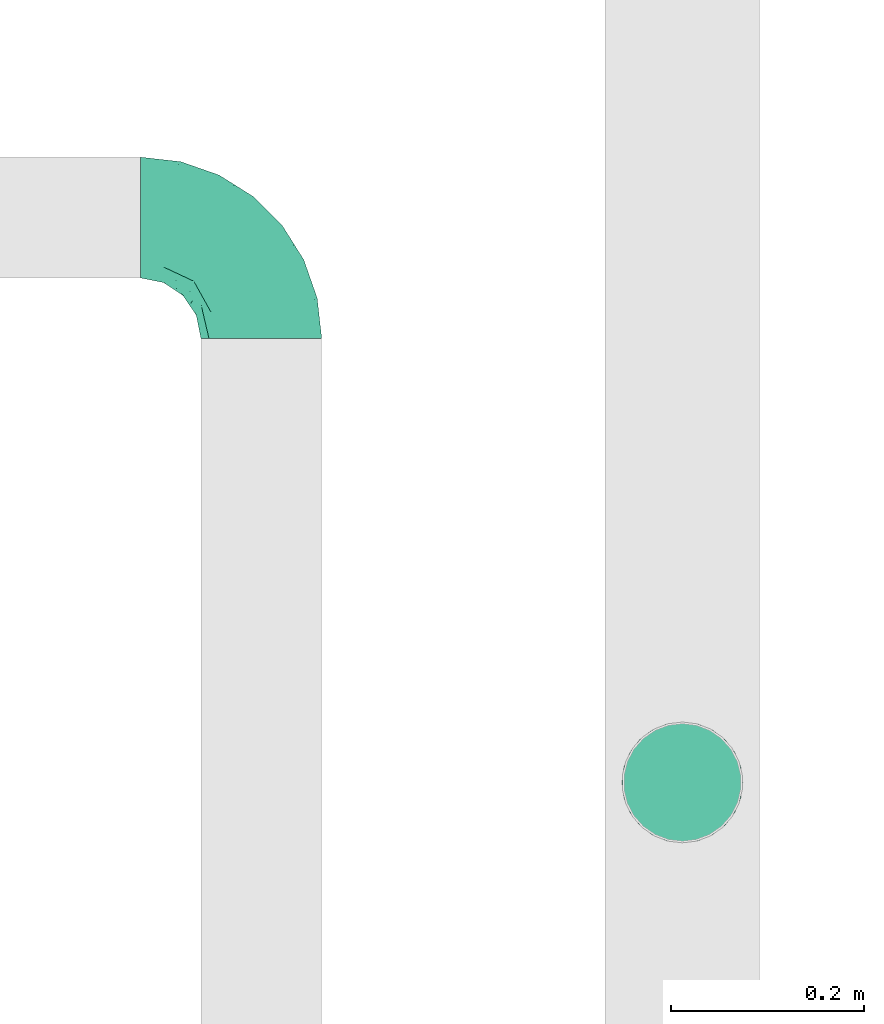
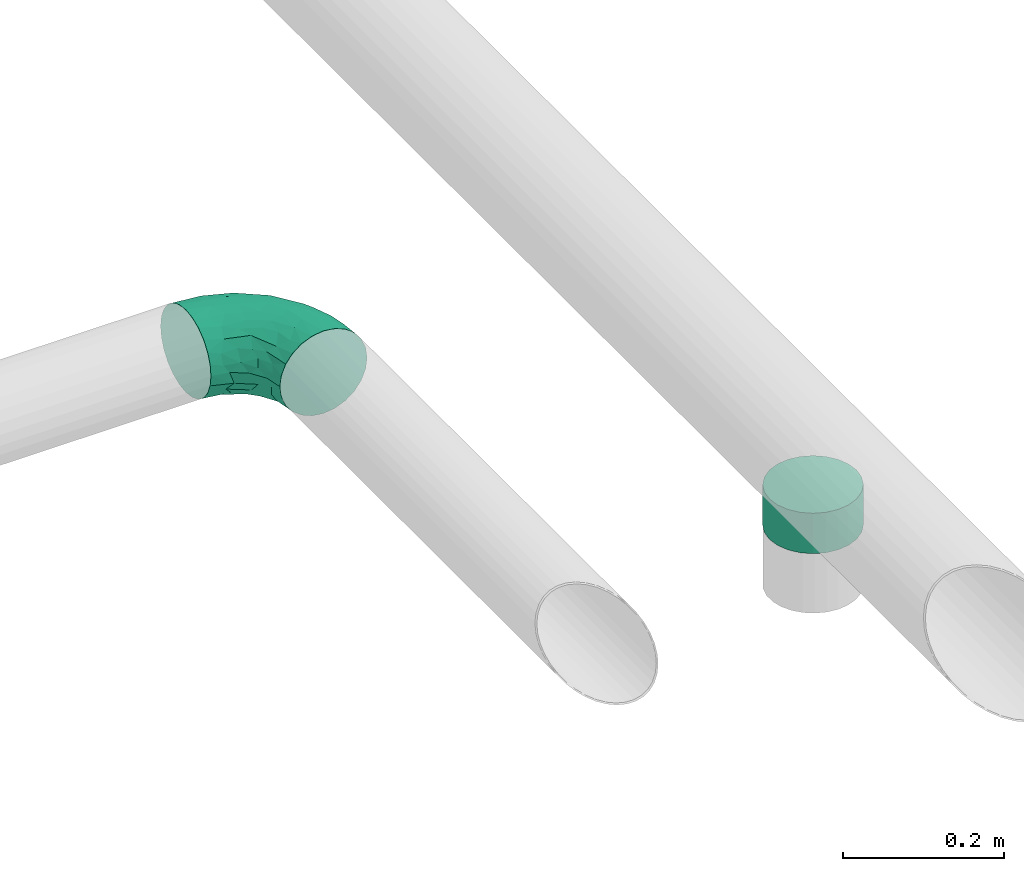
# One storey, part 6 of 10: 2 flow fittings.
"""IFC2X3 building model written with IfcOpenShell, lengths in millimetres."""

from ifc_helpers import new_model, entity, si_unit, converted_unit, derived_unit, direction, frame, origin_with_axes, place, context, subcontext, project, spatial, open_shell, surface_model, source, transform, mapped, type_object, element, save


model = new_model("IFC2X3")

# Units and contexts
model_context = context("Model", 3, precision=0.01, world=frame((0.0, 4.29681676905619e-09, 0.0)), true_north=direction((4.01073788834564e-13, 1.0)))
plan_context = context("Plan", 3, precision=0.01, world=frame((0.0, 4.29681676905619e-09, 0.0)), true_north=direction((4.01073788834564e-13, 1.0)))
body_context = subcontext(model_context, "Body", "Model", "MODEL_VIEW")
ifc_project = project(units=[converted_unit("PLANEANGLEUNIT", "DEGREE", entity("IfcPositiveLengthMeasure", 0.0174532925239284), si_unit("PLANEANGLEUNIT", "RADIAN"), dimensions=[0, 0, 0, 0, 0, 0, 0]), si_unit("AREAUNIT", "SQUARE_METRE"), si_unit("LENGTHUNIT", "METRE", prefix="MILLI"), si_unit("MASSUNIT", "GRAM", prefix="KILO"), si_unit("POWERUNIT", "WATT"), si_unit("PRESSUREUNIT", "PASCAL"), si_unit("FORCEUNIT", "NEWTON", prefix="KILO"), si_unit("ELECTRICCURRENTUNIT", "AMPERE"), si_unit("THERMODYNAMICTEMPERATUREUNIT", "DEGREE_CELSIUS"), si_unit("TIMEUNIT", "SECOND"), si_unit("VOLUMEUNIT", "CUBIC_METRE"), derived_unit("LINEARVELOCITYUNIT", [(si_unit("LENGTHUNIT", "METRE"), 1), (si_unit("TIMEUNIT", "SECOND"), -1)]), derived_unit("VOLUMETRICFLOWRATEUNIT", [(si_unit("VOLUMEUNIT", "CUBIC_METRE"), 1), (si_unit("TIMEUNIT", "SECOND"), -1)]), derived_unit("THERMALTRANSMITTANCEUNIT", [(si_unit("POWERUNIT", "WATT"), 1), (si_unit("THERMODYNAMICTEMPERATUREUNIT", "KELVIN"), -1), (si_unit("AREAUNIT", "SQUARE_METRE"), -1)])], contexts=[model_context, plan_context])

# Site, building, storey
site_placement = place(None, frame((0.0, -4.29681676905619e-09, 0.0), z_axis=(0.0, 0.0, 1.0), x_axis=(1.0, 0.0, 0.0)))
site = spatial("IfcSite", under=ifc_project, at=site_placement, CompositionType="ELEMENT")
building_placement = place(site_placement, frame((0.0, 4.29681676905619e-09, 0.0), z_axis=(0.0, 0.0, 1.0), x_axis=(1.0, 0.0, 0.0)))
building = spatial("IfcBuilding", under=site, at=building_placement, Name="mc-building", CompositionType="ELEMENT")
storey_placement = place(building_placement, frame((0.0, 0.0, 200300.0), z_axis=(0.0, 0.0, 1.0), x_axis=(1.0, 0.0, 0.0)))
storey = spatial("IfcBuildingStorey", under=building, at=storey_placement, Name="Nivå C", CompositionType="ELEMENT", Elevation=200300.0)

# Flow fittings
duct_fitting_type_1 = type_object("IfcDuctFittingType", Name="magicirc_elbow_full_radius_001", PredefinedType="BEND")
shared_shape_1 = source(origin_with_axes(), body_context, "Body", "SurfaceModel", [
    surface_model("IfcShellBasedSurfaceModel", [(-125.0, 31.25, -54.12659), (-125.0, 16.17619, -60.37037), (-125.0, 44.19417, -44.19417), (-125.0, 60.37037, -16.17619), (-125.0, 54.12659, -31.25), (-125.0, -31.25, -54.12659), (-125.0, -44.19417, -44.19417), (-125.0, -16.17619, -60.37037), (-125.0, -54.12659, -31.25), (-125.0, -60.37037, -16.17619), (-125.0, -62.5, 0.0), (-125.0, -54.12659, 31.25), (-125.0, -44.19417, 44.19417), (-125.0, -60.37037, 16.17619), (-125.0, -16.17619, 60.37037), (-125.0, 0.0, 62.5), (-125.0, -31.25, 54.12659), (-125.0, 16.17619, 60.37037), (-44.19417, 125.0, -44.19417), (-16.17619, 125.0, -60.37037), (-31.25, 125.0, -54.12659), (-54.12659, 125.0, -31.25), (-60.37037, 125.0, -16.17619), (16.17619, 125.0, -60.37037), (44.19417, 125.0, -44.19417), (31.25, 125.0, -54.12659), (60.37037, 125.0, -16.17619), (54.12659, 125.0, -31.25), (62.5, 125.0, 0.0), (44.19417, 125.0, 44.19417), (31.25, 125.0, 54.12659), (60.37037, 125.0, 16.17619), (54.12659, 125.0, 31.25), (0.0, 125.0, 62.5), (16.17619, 125.0, 60.37037), (-16.17619, 125.0, 60.37037), (-92.0149, -48.59662, 35.11543), (-82.31101, -36.10079, 46.59002), (-83.27732, -57.79898, 0.0), (21.5934, 8.09566, 0.0), (6.68953, -6.68953, 12.50062), (-8.09566, -21.5934, 0.0), (-85.18285, -54.95352, 19.72452), (-63.86862, 108.10791, 10.69753), (-72.65264, 88.16475, 13.64847), (-58.85933, 108.47697, 26.01876), (28.68805, 50.93011, 42.73586), (15.24994, 48.30376, 51.88115), (13.33611, 22.15566, 40.76355), (-28.58034, -33.18174, 16.61251), (-55.80927, -40.00167, 31.60254), (-55.92901, -46.21073, 18.75923), (-43.6468, -43.93166, 0.0), (-11.16429, 11.16428, 51.09905), (-91.91541, -23.64007, 56.2333), (-48.30376, -15.24994, 51.88115), (-62.2246, -0.56088, 60.57833), (-86.05221, 71.09173, 22.01563), (-76.29757, 73.71528, 30.99181), (-95.48, -8.27954, 61.43109), (-21.72166, 61.46244, 62.38786), (-46.29465, 46.29465, 60.98138), (-37.21568, 27.31198, 62.17805), (-125.0, 31.25, 54.12659), (-96.3442, 24.51222, 59.0402), (-23.33012, 107.80836, 58.54242), (-8.56588, 93.49118, 62.34649), (-87.52028, 9.58041, 62.39347), (-125.0, 54.12659, 31.25), (-90.8433, 62.14568, 32.36992), (-104.65631, 61.64741, 22.10298), (-108.67612, 63.76169, 10.43133), (-125.0, 62.5, 0.0), (-125.0, 60.37037, 16.17619), (-88.81041, 72.98575, 10.36437), (36.10079, 82.31101, 46.59002), (-22.15566, -13.33612, 40.76355), (-125.0, 44.19417, 44.19417), (-97.70214, 52.10141, 41.01675), (33.18174, 28.58034, 16.61251), (43.93166, 43.6468, 0.0), (-108.13323, 37.84893, 50.9265), (-16.31425, 41.86087, 61.36861), (-31.05498, 11.46575, 58.36241), (-6.38494, 33.76703, 57.43674), (23.64007, 91.91541, 56.2333), (8.27954, 95.48, 61.43109), (40.00167, 55.80927, 31.60254), (47.31258, 55.33607, 14.21495), (57.79898, 83.27732, 0.0), (54.95352, 85.18285, 19.72452), (48.59662, 92.0149, 35.11543), (-51.08394, 80.06201, 49.23756), (-51.34965, 100.68876, 40.68918), (-65.88145, 69.79931, 44.27158), (-67.25753, 101.08228, 0.0), (-60.37037, 125.0, 16.17619), (-54.12659, 125.0, 31.25), (-66.7509, 56.0836, 51.93913), (-47.27423, 67.56375, 55.69769), (-62.5, 125.0, 0.0), (-80.80582, 80.80582, 0.0), (-101.08228, 67.25753, 0.0), (-27.0301, 84.68903, 59.52251), (-39.49549, 96.79785, 51.80473), (-4.68934, 4.68934, 43.22247), (2.91368, -2.91368, 27.95973), (-31.25, 125.0, 54.12659), (-44.19417, 125.0, 44.19417), (-68.67967, 26.77168, 61.38152), (-61.32894, 15.31518, 62.47333), (-66.44476, 42.40788, 57.80884), (-86.06534, 42.42608, 52.63144), (-36.4073, 64.87811, 59.87196), (0.56088, 62.2246, 60.57833), (-50.92891, -28.66756, 42.755), (-64.50927, 88.5041, 30.85553), (-27.43118, -26.16339, 29.83954), (22.73426, 21.43212, 28.89237), (-90.73911, 40.97988, -52.27133), (-51.05944, -15.77315, -52.43613), (-54.27147, -0.77962, -59.44482), (-25.11169, -1.04586, -51.21226), (-125.0, 0.0, -62.5), (-98.94229, 7.90272, -62.29658), (-67.16143, 94.52638, -18.73917), (-96.1712, 24.53976, -59.04752), (-57.8841, 72.64103, -48.12601), (-44.50916, 76.42373, -54.27754), (-57.76281, 57.76281, -54.8772), (-107.28047, 64.03146, -11.08737), (-59.60363, -46.85882, -20.9596), (-91.17795, -55.95169, -20.37554), (-87.70528, 72.36167, -15.72738), (37.33987, 90.42119, -47.18844), (21.5694, 79.15007, -55.58604), (24.6394, 105.55614, -56.88213), (-98.81833, 51.80612, -40.89409), (-75.37655, 57.2746, -47.13743), (-29.56225, -32.61603, -19.86672), (2.63114, 29.35884, -52.12213), (-22.06401, 22.064, -59.01679), (-105.22465, -49.75349, -36.31269), (-39.22852, 98.11971, -51.7028), (-25.51302, 90.93127, -59.26694), (7.06321, 14.54725, -41.00964), (25.49531, 46.66577, -43.72165), (20.99941, 20.9078, -30.93535), (-90.42119, -37.33987, -47.18844), (-47.40462, -35.90659, -32.07933), (-105.55614, -24.6394, -56.88213), (0.77962, 54.27147, -59.44482), (12.91756, 53.35696, -54.59988), (7.88048, 92.08251, -61.35725), (0.0, 125.0, -62.5), (-79.15007, -21.5694, -55.58604), (-92.08251, -7.88048, -61.35725), (-78.52964, -46.34869, -33.8522), (-68.20954, -28.53784, -49.07387), (46.34869, 78.52964, -33.8522), (46.85882, 59.60363, -20.9596), (35.90659, 47.40462, -32.07933), (-75.95077, 74.3101, -30.65772), (-100.92719, 60.72326, -27.00798), (2.91558, -2.91558, -27.95435), (6.69001, -6.69001, -12.49729), (32.61603, 29.56225, -19.86672), (-54.06785, 91.48679, -41.70621), (-58.74822, 101.55878, -30.19257), (-7.90272, 98.94229, -62.29658), (49.75349, 105.22465, -36.31269), (-14.77484, 68.85348, -62.48651), (-33.7955, 36.46996, -62.46452), (-36.98162, 59.24998, -60.63975), (55.95169, 91.17795, -20.37554), (-61.70769, 36.16979, -60.43635), (-23.35082, -23.18253, -30.24249), (-68.85348, 14.77484, -62.48651), (-16.60827, -10.64436, -39.25753), (-46.66577, -25.49531, -43.72165), (-69.70063, 70.78468, -40.55271)], [open_shell([[[0, 1, 2]], [[3, 4, 2]], [[5, 6, 7]], [[8, 9, 6]], [[10, 6, 9]], [[11, 12, 13]], [[13, 12, 10]], [[14, 15, 16]], [[16, 15, 17]], [[18, 19, 20]], [[18, 21, 22]], [[23, 24, 25]], [[24, 26, 27]], [[26, 24, 28]], [[24, 29, 28]], [[24, 22, 30]], [[31, 29, 32]], [[28, 29, 31]], [[30, 33, 34]], [[24, 30, 29]], [[35, 33, 30]], [[12, 36, 37]], [[13, 10, 38]], [[39, 40, 41]], [[42, 11, 13]], [[38, 42, 13]], [[43, 44, 45]], [[11, 36, 12]], [[46, 47, 48]], [[49, 50, 51]], [[49, 51, 52]], [[12, 37, 16]], [[49, 52, 41]], [[53, 48, 47]], [[54, 55, 56]], [[44, 57, 58]], [[59, 15, 14]], [[60, 61, 62]], [[63, 17, 64]], [[54, 16, 37]], [[35, 65, 66]], [[15, 67, 17]], [[68, 69, 70]], [[71, 72, 73]], [[57, 74, 71]], [[75, 29, 30]], [[53, 55, 76]], [[77, 78, 68]], [[79, 39, 80]], [[77, 63, 81]], [[82, 83, 84]], [[75, 30, 85]], [[57, 71, 70]], [[86, 34, 33]], [[87, 79, 88]], [[89, 90, 88]], [[89, 31, 90]], [[91, 90, 32]], [[33, 35, 66]], [[51, 38, 52]], [[31, 32, 90]], [[75, 87, 91]], [[32, 29, 91]], [[92, 93, 94]], [[43, 95, 44]], [[96, 45, 97]], [[31, 89, 28]], [[36, 42, 50]], [[69, 58, 57]], [[92, 98, 99]], [[100, 95, 43]], [[15, 59, 67]], [[44, 101, 74]], [[77, 81, 78]], [[95, 101, 44]], [[85, 30, 34]], [[45, 93, 97]], [[74, 101, 102]], [[103, 104, 99]], [[105, 106, 48]], [[103, 60, 66]], [[16, 54, 14]], [[104, 103, 65]], [[65, 35, 107]], [[107, 108, 104]], [[75, 85, 47]], [[88, 79, 80]], [[109, 110, 62]], [[64, 17, 67]], [[111, 64, 109]], [[98, 78, 112]], [[70, 69, 57]], [[93, 108, 97]], [[103, 113, 60]], [[86, 66, 114]], [[55, 54, 37]], [[59, 54, 56]], [[55, 115, 76]], [[55, 53, 83]], [[86, 85, 34]], [[114, 84, 47]], [[114, 47, 85]], [[105, 48, 53]], [[42, 36, 11]], [[37, 36, 50]], [[75, 91, 29]], [[90, 91, 87]], [[109, 64, 67]], [[81, 64, 112]], [[71, 74, 102]], [[44, 74, 57]], [[72, 71, 102]], [[71, 73, 70]], [[73, 68, 70]], [[69, 68, 78]], [[78, 94, 69]], [[58, 94, 116]], [[104, 92, 99]], [[111, 98, 112]], [[109, 62, 61]], [[114, 66, 60]], [[83, 62, 56]], [[60, 62, 82]], [[66, 86, 33]], [[85, 86, 114]], [[54, 59, 14]], [[67, 59, 56]], [[94, 93, 116]], [[104, 108, 93]], [[40, 49, 41]], [[117, 106, 76]], [[87, 46, 118]], [[79, 118, 40]], [[115, 55, 37]], [[49, 117, 50]], [[118, 48, 106]], [[75, 46, 87]], [[109, 67, 110]], [[111, 109, 61]], [[99, 111, 61]], [[64, 111, 112]], [[99, 98, 111]], [[78, 98, 94]], [[67, 56, 110]], [[56, 62, 110]], [[94, 58, 69]], [[44, 58, 116]], [[55, 83, 56]], [[84, 83, 53]], [[47, 84, 53]], [[82, 84, 114]], [[60, 82, 114]], [[83, 82, 62]], [[45, 44, 116]], [[100, 43, 96]], [[79, 40, 39]], [[49, 40, 106]], [[64, 81, 63]], [[78, 81, 112]], [[104, 65, 107]], [[66, 65, 103]], [[43, 45, 96]], [[93, 45, 116]], [[60, 113, 61]], [[103, 99, 113]], [[93, 92, 104]], [[98, 92, 94]], [[50, 42, 51]], [[51, 42, 38]], [[89, 88, 80]], [[87, 88, 90]], [[37, 50, 115]], [[117, 115, 50]], [[106, 117, 49]], [[115, 117, 76]], [[53, 76, 105]], [[106, 105, 76]], [[40, 118, 106]], [[87, 118, 79]], [[47, 46, 75]], [[118, 46, 48]], [[2, 119, 0]], [[120, 121, 122]], [[123, 1, 124]], [[125, 95, 100]], [[0, 126, 1]], [[127, 128, 129]], [[102, 130, 72]], [[131, 38, 132]], [[102, 133, 130]], [[134, 135, 136]], [[137, 138, 119]], [[52, 139, 41]], [[140, 122, 141]], [[119, 2, 137]], [[132, 8, 142]], [[143, 20, 144]], [[38, 10, 9]], [[145, 146, 147]], [[148, 6, 5]], [[139, 131, 149]], [[150, 148, 5]], [[140, 151, 152]], [[23, 153, 154]], [[132, 9, 8]], [[142, 8, 6]], [[155, 156, 121]], [[157, 148, 158]], [[5, 7, 150]], [[156, 7, 123]], [[159, 160, 161]], [[101, 133, 102]], [[52, 38, 131]], [[125, 162, 133]], [[137, 163, 162]], [[22, 125, 100]], [[139, 164, 165]], [[166, 80, 39]], [[167, 168, 21]], [[162, 125, 168]], [[25, 24, 134]], [[153, 23, 136]], [[19, 169, 144]], [[126, 0, 119]], [[169, 19, 154]], [[24, 27, 170]], [[20, 143, 18]], [[19, 144, 20]], [[23, 25, 136]], [[80, 166, 160]], [[165, 166, 39]], [[171, 172, 173]], [[141, 151, 140]], [[165, 39, 41]], [[156, 155, 150]], [[135, 134, 146]], [[27, 26, 174]], [[28, 89, 26]], [[175, 126, 119]], [[2, 4, 137]], [[174, 159, 170]], [[176, 139, 149]], [[171, 153, 151]], [[125, 101, 95]], [[21, 18, 167]], [[173, 144, 171]], [[130, 163, 3]], [[127, 143, 128]], [[138, 127, 129]], [[174, 160, 159]], [[170, 134, 24]], [[146, 134, 159]], [[151, 153, 135]], [[169, 153, 171]], [[152, 146, 140]], [[151, 141, 172]], [[26, 89, 174]], [[160, 89, 80]], [[155, 120, 158]], [[142, 148, 157]], [[124, 156, 123]], [[177, 172, 121]], [[177, 121, 156]], [[121, 141, 122]], [[132, 157, 131]], [[38, 9, 132]], [[125, 133, 101]], [[168, 22, 21]], [[163, 4, 3]], [[119, 138, 129]], [[175, 119, 129]], [[124, 126, 177]], [[144, 173, 128]], [[167, 18, 143]], [[146, 145, 140]], [[178, 122, 145]], [[122, 140, 145]], [[122, 179, 120]], [[162, 163, 133]], [[137, 4, 163]], [[126, 124, 1]], [[156, 124, 177]], [[153, 169, 154]], [[144, 169, 171]], [[146, 161, 147]], [[145, 164, 178]], [[176, 164, 139]], [[122, 178, 179]], [[171, 151, 172]], [[175, 129, 173]], [[121, 172, 141]], [[175, 172, 177]], [[172, 175, 173]], [[126, 175, 177]], [[162, 180, 137]], [[180, 167, 127]], [[160, 174, 89]], [[161, 160, 166]], [[161, 166, 147]], [[146, 159, 161]], [[166, 164, 147]], [[164, 145, 147]], [[149, 131, 157]], [[52, 131, 139]], [[157, 179, 149]], [[176, 179, 178]], [[180, 127, 138]], [[143, 127, 167]], [[144, 128, 143]], [[173, 129, 128]], [[137, 180, 138]], [[167, 180, 162]], [[179, 176, 149]], [[164, 176, 178]], [[139, 165, 41]], [[166, 165, 164]], [[163, 130, 133]], [[72, 130, 3]], [[134, 136, 25]], [[153, 136, 135]], [[174, 170, 27]], [[134, 170, 159]], [[156, 150, 7]], [[148, 150, 155]], [[148, 142, 6]], [[132, 142, 157]], [[162, 168, 167]], [[22, 168, 125]], [[151, 135, 152]], [[146, 152, 135]], [[158, 120, 179]], [[121, 120, 155]], [[157, 158, 179]], [[155, 158, 148]], [[123, 6, 1]], [[6, 2, 1]], [[2, 6, 3]], [[6, 123, 7]], [[10, 12, 6]], [[73, 3, 6]], [[6, 16, 73]], [[73, 16, 68]], [[63, 68, 16]], [[77, 68, 63]], [[63, 16, 17]], [[12, 16, 6]], [[72, 3, 73]], [[19, 24, 154]], [[19, 18, 24]], [[22, 24, 18]], [[23, 154, 24]], [[22, 96, 30]], [[97, 30, 96]], [[30, 97, 107]], [[107, 97, 108]], [[35, 30, 107]], [[22, 100, 96]], [[99, 61, 113]]])]),
])
flow_fitting_1_placement = place(storey_placement, frame((520507.1, 402160.46875, 2880.0), z_axis=(0.0, 0.0, 1.0), x_axis=(0.0, 1.0, 0.0)))
element("IfcFlowFitting", 1, at=flow_fitting_1_placement, inside=storey, type_object=duct_fitting_type_1, Name="magicirc_elbow_full_radius_001", context=body_context, shape_type="MappedRepresentation", body=[
    mapped(shared_shape_1, transform((0.0, 0.0, 0.0), scale=1.0)),
])
duct_fitting_type_2 = type_object("IfcDuctFittingType", Name="magicirc_tapoutlet_001", PredefinedType="CONNECTOR")
shared_shape_2 = source(origin_with_axes(), body_context, "Body", "SurfaceModel", [
    surface_model("IfcShellBasedSurfaceModel", [(25.0, 0.0, -62.5), (25.0, -31.25, -54.12659), (25.0, -16.17619, -60.37037), (-36.15854, 0.0, -62.5), (-36.15854, -16.17619, -60.37037), (-36.15854, 16.17619, -60.37037), (-36.15854, 60.37037, 16.17619), (-36.15854, 31.25, -54.12659), (-36.15854, 44.19417, -44.19417), (-36.15854, 54.12659, -31.25), (-36.15854, -62.5, 0.0), (-36.15854, -60.37037, 16.17619), (-36.15854, -44.19417, -44.19417), (-36.15854, -31.25, -54.12659), (-36.15854, -60.37037, -16.17619), (-36.15854, -54.12659, -31.25), (-36.15854, 60.37037, -16.17619), (-36.15854, 54.12659, 31.25), (-36.15854, 44.19417, 44.19417), (-36.15854, 16.17619, 60.37037), (-36.15854, 31.25, 54.12659), (-36.15854, -16.17619, 60.37037), (-36.15854, -54.12659, 31.25), (-36.15854, -44.19417, 44.19417), (-36.15854, -31.25, 54.12659), (-36.15854, 0.0, 62.5), (-36.15854, 62.5, 0.0), (0.0, 0.0, 62.5), (0.0, 16.17619, 60.37037), (0.0, 31.25, 54.12659), (0.0, 44.19417, 44.19417), (0.0, 54.12659, 31.25), (0.0, 60.37037, 16.17619), (0.0, 62.5, 0.0), (0.0, 60.37037, -16.17619), (0.0, 54.12659, -31.25), (0.0, 44.19417, -44.19417), (0.0, 31.25, -54.12659), (0.0, 16.17619, -60.37037), (0.0, 0.0, -62.5), (0.0, -16.17619, -60.37037), (0.0, -31.25, -54.12659), (0.0, -44.19417, -44.19417), (0.0, -54.12659, -31.25), (0.0, -60.37037, -16.17619), (0.0, -62.5, 0.0), (0.0, -60.37037, 16.17619), (0.0, -54.12659, 31.25), (0.0, -44.19417, 44.19417), (0.0, -31.25, 54.12659), (0.0, -16.17619, 60.37037), (25.0, 44.19417, -44.19417), (25.0, 62.5, 0.0), (25.0, 31.25, -54.12659), (25.0, 54.12659, -31.25), (25.0, -62.5, 0.0), (25.0, -60.37037, -16.17619), (25.0, -60.37037, 16.17619), (25.0, 16.17619, -60.37037), (25.0, -44.19417, -44.19417), (25.0, -54.12659, -31.25), (25.0, 60.37037, -16.17619), (25.0, 60.37037, 16.17619), (25.0, 54.12659, 31.25), (25.0, 44.19417, 44.19417), (25.0, 31.25, 54.12659), (25.0, 0.0, 62.5), (25.0, 16.17619, 60.37037), (25.0, -44.19417, 44.19417), (25.0, -54.12659, 31.25), (25.0, -16.17619, 60.37037), (25.0, -31.25, 54.12659)], [open_shell([[[0, 1, 2]], [[3, 4, 5]], [[5, 6, 7]], [[8, 6, 9]], [[7, 6, 8]], [[5, 10, 11]], [[12, 10, 13]], [[4, 13, 10]], [[14, 10, 15]], [[12, 15, 10]], [[10, 5, 4]], [[16, 9, 6]], [[6, 5, 17]], [[18, 17, 5]], [[5, 19, 20]], [[5, 20, 18]], [[5, 21, 19]], [[22, 23, 5]], [[5, 11, 22]], [[23, 24, 5]], [[5, 24, 21]], [[21, 25, 19]], [[26, 16, 6]], [[25, 27, 28]], [[19, 28, 29]], [[25, 28, 19]], [[20, 30, 18]], [[20, 19, 29]], [[30, 20, 29]], [[17, 31, 32]], [[6, 32, 33]], [[18, 31, 17]], [[6, 17, 32]], [[26, 6, 33]], [[31, 18, 30]], [[26, 33, 34]], [[16, 34, 35]], [[26, 34, 16]], [[9, 36, 8]], [[9, 16, 35]], [[36, 9, 35]], [[7, 37, 38]], [[5, 38, 39]], [[8, 37, 7]], [[5, 7, 38]], [[3, 5, 39]], [[37, 8, 36]], [[3, 39, 40]], [[4, 40, 41]], [[3, 40, 4]], [[13, 42, 12]], [[13, 4, 41]], [[42, 13, 41]], [[15, 43, 44]], [[10, 44, 45]], [[12, 43, 15]], [[14, 15, 44]], [[10, 14, 44]], [[43, 12, 42]], [[10, 45, 46]], [[11, 46, 47]], [[10, 46, 11]], [[22, 48, 23]], [[22, 11, 47]], [[48, 22, 47]], [[24, 49, 50]], [[21, 50, 27]], [[23, 49, 24]], [[21, 24, 50]], [[25, 21, 27]], [[49, 23, 48]], [[5, 17, 6]], [[5, 18, 17]], [[20, 5, 19]], [[20, 18, 5]], [[19, 5, 21]], [[22, 5, 11]], [[51, 52, 53]], [[51, 54, 52]], [[55, 56, 57]], [[58, 52, 0]], [[53, 52, 58]], [[59, 0, 57]], [[0, 59, 1]], [[1, 2, 0]], [[60, 57, 56]], [[57, 60, 59]], [[56, 57, 55]], [[52, 54, 61]], [[62, 63, 0]], [[0, 63, 64]], [[0, 65, 66]], [[64, 65, 0]], [[65, 67, 66]], [[0, 68, 69]], [[69, 57, 0]], [[70, 71, 0]], [[71, 68, 0]], [[70, 0, 66]], [[52, 62, 0]], [[27, 66, 67]], [[28, 67, 65]], [[27, 67, 28]], [[29, 64, 30]], [[29, 28, 65]], [[64, 29, 65]], [[31, 63, 62]], [[32, 62, 52]], [[30, 63, 31]], [[32, 31, 62]], [[33, 32, 52]], [[63, 30, 64]], [[33, 52, 61]], [[34, 61, 54]], [[33, 61, 34]], [[35, 51, 36]], [[35, 34, 54]], [[51, 35, 54]], [[37, 53, 58]], [[38, 58, 0]], [[36, 53, 37]], [[38, 37, 58]], [[39, 38, 0]], [[53, 36, 51]], [[39, 0, 2]], [[40, 2, 1]], [[39, 2, 40]], [[41, 59, 42]], [[41, 40, 1]], [[59, 41, 1]], [[43, 60, 56]], [[44, 56, 55]], [[42, 60, 43]], [[44, 43, 56]], [[45, 44, 55]], [[60, 42, 59]], [[45, 55, 57]], [[46, 57, 69]], [[45, 57, 46]], [[47, 68, 48]], [[47, 46, 69]], [[68, 47, 69]], [[49, 71, 70]], [[50, 70, 66]], [[48, 71, 49]], [[50, 49, 70]], [[27, 50, 66]], [[71, 48, 68]], [[63, 0, 62]], [[63, 64, 0]], [[0, 64, 65]], [[66, 65, 67]], [[57, 0, 69]], [[0, 71, 68]], [[66, 70, 0]], [[62, 0, 52]]])]),
])
flow_fitting_2_placement = place(storey_placement, frame((520942.6375, 401576.16875, 2800.0), z_axis=(-1.0, 0.0, 0.0), x_axis=(0.0, 0.0, -1.0)))
element("IfcFlowFitting", 2, at=flow_fitting_2_placement, inside=storey, type_object=duct_fitting_type_2, Name="magicirc_tapoutlet_001", context=body_context, shape_type="MappedRepresentation", body=[
    mapped(shared_shape_2, transform((0.0, 0.0, 0.0), scale=1.0)),
])

save(model, "model.ifc")
